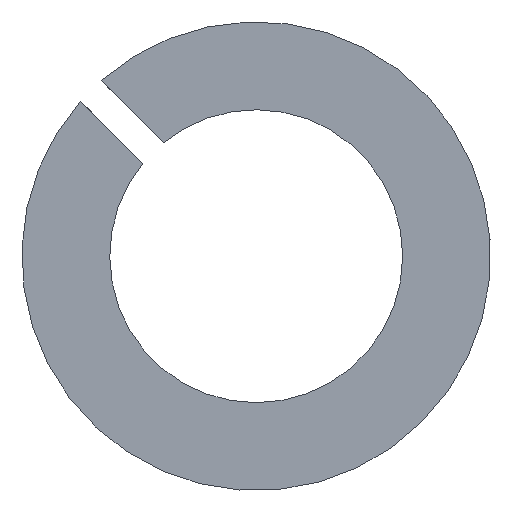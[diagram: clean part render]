
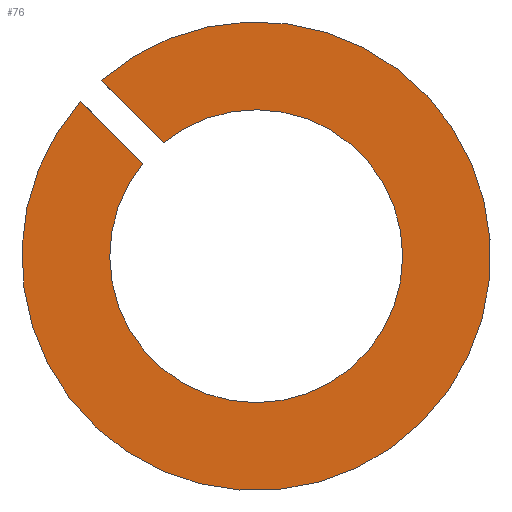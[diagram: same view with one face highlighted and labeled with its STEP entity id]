
A CAD part, left-side view. The second image highlights one B-rep face of the part: STEP entity #76.
In plain terms, the highlighted planar face has unit normal (-1, 0, 0).
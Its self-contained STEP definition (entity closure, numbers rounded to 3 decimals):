
#76 = ADVANCED_FACE( '', ( #92 ), #93, .T. );
#92 = FACE_OUTER_BOUND( '', #120, .T. );
#93 = PLANE( '', #121 );
#120 = EDGE_LOOP( '', ( #153, #154, #155, #156 ) );
#121 = AXIS2_PLACEMENT_3D( '', #157, #158, #159 );
#153 = ORIENTED_EDGE( '', *, *, #264, .T. );
#154 = ORIENTED_EDGE( '', *, *, #265, .T. );
#155 = ORIENTED_EDGE( '', *, *, #260, .F. );
#156 = ORIENTED_EDGE( '', *, *, #266, .T. );
#157 = CARTESIAN_POINT( '', ( 0., 16., 0. ) );
#158 = DIRECTION( '', ( -1., 0., 0. ) );
#159 = DIRECTION( '', ( 0., 0., 1. ) );
#260 = EDGE_CURVE( '', #296, #297, #298, .T. );
#264 = EDGE_CURVE( '', #304, #305, #306, .T. );
#265 = EDGE_CURVE( '', #305, #297, #307, .T. );
#266 = EDGE_CURVE( '', #296, #304, #308, .T. );
#296 = VERTEX_POINT( '', #356 );
#297 = VERTEX_POINT( '', #357 );
#298 = CIRCLE( '', #358, 16. );
#304 = VERTEX_POINT( '', #366 );
#305 = VERTEX_POINT( '', #367 );
#306 = CIRCLE( '', #368, 10. );
#307 = LINE( '', #369, #370 );
#308 = LINE( '', #371, #372 );
#356 = CARTESIAN_POINT( '', ( 0., 10.584, 11.999 ) );
#357 = CARTESIAN_POINT( '', ( 0., 11.999, 10.584 ) );
#358 = AXIS2_PLACEMENT_3D( '', #440, #441, #442 );
#366 = CARTESIAN_POINT( '', ( 0., 6.329, 7.743 ) );
#367 = CARTESIAN_POINT( '', ( 0., 7.743, 6.329 ) );
#368 = AXIS2_PLACEMENT_3D( '', #448, #449, #450 );
#369 = CARTESIAN_POINT( '', ( 0., 7.425, 6.01 ) );
#370 = VECTOR( '', #451, 1000. );
#371 = CARTESIAN_POINT( '', ( 0., 10.96, 12.374 ) );
#372 = VECTOR( '', #452, 1000. );
#440 = CARTESIAN_POINT( '', ( 0., 0., 0. ) );
#441 = DIRECTION( '', ( 1., 0., 0. ) );
#442 = DIRECTION( '', ( 0., 0., -1. ) );
#448 = CARTESIAN_POINT( '', ( 0., 0., 0. ) );
#449 = DIRECTION( '', ( 1., 0., 0. ) );
#450 = DIRECTION( '', ( 0., 0., -1. ) );
#451 = DIRECTION( '', ( 0., 0.707, 0.707 ) );
#452 = DIRECTION( '', ( 0., -0.707, -0.707 ) );
